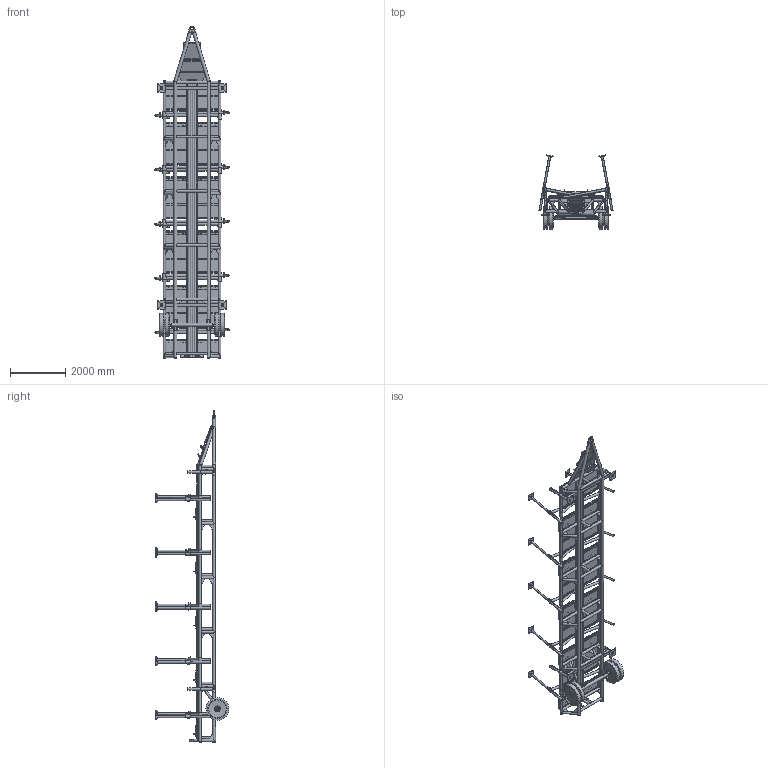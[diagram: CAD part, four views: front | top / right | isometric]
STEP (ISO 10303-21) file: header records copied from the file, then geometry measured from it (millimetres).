
FILE_DESCRIPTION(('STEP AP214'), '1');
FILE_NAME('Ìîñò ïðèåìíûé ñ äîï îïîðàìè â òðàíñïîðòíîì ïîëîæåíèè', '', ('UNSPECIFIED'), ('UNSPECIFIED'), 'C3D Converter', 'C3D Toolkit', '');
FILE_SCHEMA(('AUTOMOTIVE_DESIGN { 1 0 10303 214 3 1 1}'));
Length unit declared in the file: millimetre
Bounding box: 2681.13 x 2666.5 x 11994.67 mm (x, y, z)
Volume: 767813358.8 mm3; surface area: 167924301.2 mm2
Topology: 283 solids, 289 shells, 5283 faces, 13191 edges, 7929 vertices
Faces by surface type: plane 3184, cylinder 1914, torus 118, cone 59, bspline 8
Full cylindrical faces by diameter (mm): 4.5 x10, 5 x16, 14 x112, 15.7 x24, 16 x20, 20 x52, 21.3 x24, 22 x196, 30 x4, 62 x24, 67 x1, 73 x25, 75 x1, 77 x62, 80 x6, 89 x62, 96 x20, 97 x2, 98 x1, 100 x2, 108 x16, 114 x1, 115 x2, 130 x3, 140 x2, 150 x3, 160 x4, 210 x2, 212 x2, 218 x2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
Entity records: 301157 total; most frequent: CARTESIAN_POINT 133866, ORIENTED_EDGE 24542, DIRECTION 24364, EDGE_CURVE 12271, LINE 8186, VECTOR 8186, AXIS2_PLACEMENT_3D 8089, VERTEX_POINT 7929
